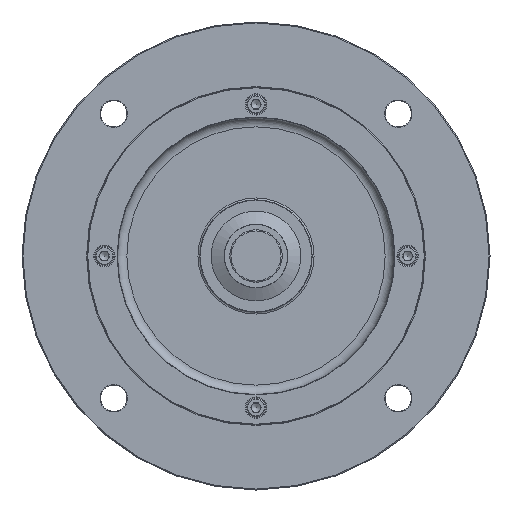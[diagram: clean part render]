
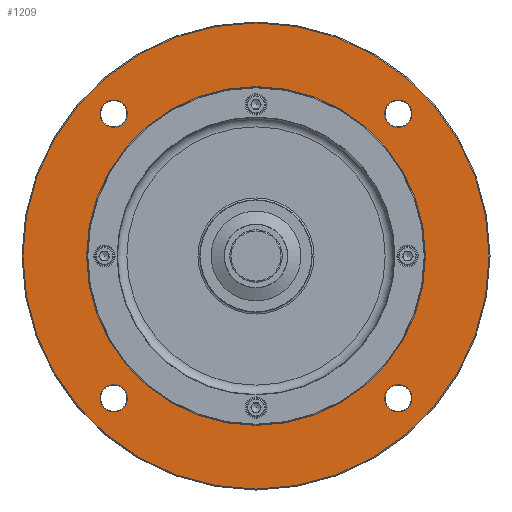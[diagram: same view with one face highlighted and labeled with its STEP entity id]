
A CAD part, front view. The second image highlights one B-rep face of the part: STEP entity #1209.
In plain terms, the highlighted planar face has unit normal (0, -1, 0).
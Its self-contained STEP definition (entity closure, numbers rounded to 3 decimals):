
#877=FACE_BOUND('',#1862,.T.);
#878=FACE_BOUND('',#1863,.T.);
#879=FACE_BOUND('',#1864,.T.);
#880=FACE_BOUND('',#1865,.T.);
#881=FACE_BOUND('',#1866,.T.);
#1209=ADVANCED_FACE('',(#877,#878,#879,#880,#881,#1627),#1524,.T.);
#1524=PLANE('',#4743);
#1627=FACE_OUTER_BOUND('',#1867,.T.);
#1862=EDGE_LOOP('',(#2432));
#1863=EDGE_LOOP('',(#2433));
#1864=EDGE_LOOP('',(#2434));
#1865=EDGE_LOOP('',(#2435));
#1866=EDGE_LOOP('',(#2436));
#1867=EDGE_LOOP('',(#2437));
#2432=ORIENTED_EDGE('',*,*,#3851,.T.);
#2433=ORIENTED_EDGE('',*,*,#3852,.T.);
#2434=ORIENTED_EDGE('',*,*,#3853,.T.);
#2435=ORIENTED_EDGE('',*,*,#3854,.T.);
#2436=ORIENTED_EDGE('',*,*,#3855,.T.);
#2437=ORIENTED_EDGE('',*,*,#3856,.T.);
#3438=VERTEX_POINT('',#7037);
#3439=VERTEX_POINT('',#7039);
#3440=VERTEX_POINT('',#7041);
#3441=VERTEX_POINT('',#7043);
#3442=VERTEX_POINT('',#7045);
#3443=VERTEX_POINT('',#7047);
#3851=EDGE_CURVE('',#3438,#3438,#4354,.T.);
#3852=EDGE_CURVE('',#3439,#3439,#4355,.T.);
#3853=EDGE_CURVE('',#3440,#3440,#4356,.T.);
#3854=EDGE_CURVE('',#3441,#3441,#4357,.T.);
#3855=EDGE_CURVE('',#3442,#3442,#4358,.T.);
#3856=EDGE_CURVE('',#3443,#3443,#4359,.T.);
#4354=CIRCLE('',#4737,90.5);
#4355=CIRCLE('',#4738,7.3);
#4356=CIRCLE('',#4739,7.3);
#4357=CIRCLE('',#4740,7.3);
#4358=CIRCLE('',#4741,7.3);
#4359=CIRCLE('',#4742,124.5);
#4737=AXIS2_PLACEMENT_3D('',#7036,#5484,#5485);
#4738=AXIS2_PLACEMENT_3D('',#7038,#5486,#5487);
#4739=AXIS2_PLACEMENT_3D('',#7040,#5488,#5489);
#4740=AXIS2_PLACEMENT_3D('',#7042,#5490,#5491);
#4741=AXIS2_PLACEMENT_3D('',#7044,#5492,#5493);
#4742=AXIS2_PLACEMENT_3D('',#7046,#5494,#5495);
#4743=AXIS2_PLACEMENT_3D('',#7048,#5496,#5497);
#5484=DIRECTION('',(0.,1.,0.));
#5485=DIRECTION('',(0.,0.,-1.));
#5486=DIRECTION('',(0.,1.,0.));
#5487=DIRECTION('',(0.,0.,-1.));
#5488=DIRECTION('',(0.,1.,0.));
#5489=DIRECTION('',(0.,0.,-1.));
#5490=DIRECTION('',(0.,1.,0.));
#5491=DIRECTION('',(0.,0.,-1.));
#5492=DIRECTION('',(0.,1.,0.));
#5493=DIRECTION('',(0.,0.,-1.));
#5494=DIRECTION('',(0.,-1.,0.));
#5495=DIRECTION('',(0.,0.,-1.));
#5496=DIRECTION('',(0.,-1.,0.));
#5497=DIRECTION('',(0.,0.,-1.));
#7036=CARTESIAN_POINT('',(0.,0.,0.));
#7037=CARTESIAN_POINT('',(0.,0.,-90.5));
#7038=CARTESIAN_POINT('',(76.014,0.,76.014));
#7039=CARTESIAN_POINT('',(76.014,0.,68.714));
#7040=CARTESIAN_POINT('',(76.014,0.,-76.014));
#7041=CARTESIAN_POINT('',(76.014,0.,-83.314));
#7042=CARTESIAN_POINT('',(-76.014,0.,-76.014));
#7043=CARTESIAN_POINT('',(-76.014,0.,-83.314));
#7044=CARTESIAN_POINT('',(-76.014,0.,76.014));
#7045=CARTESIAN_POINT('',(-76.014,0.,68.714));
#7046=CARTESIAN_POINT('',(0.,0.,0.));
#7047=CARTESIAN_POINT('',(0.,0.,-124.5));
#7048=CARTESIAN_POINT('',(0.,0.,0.));
